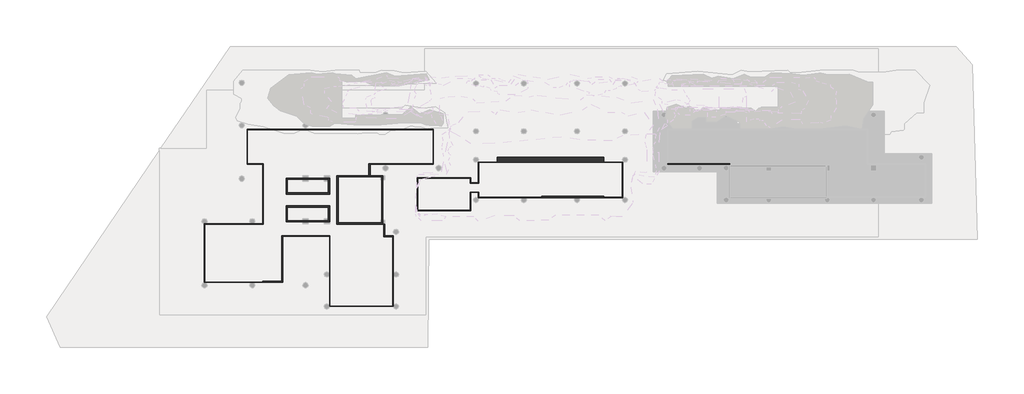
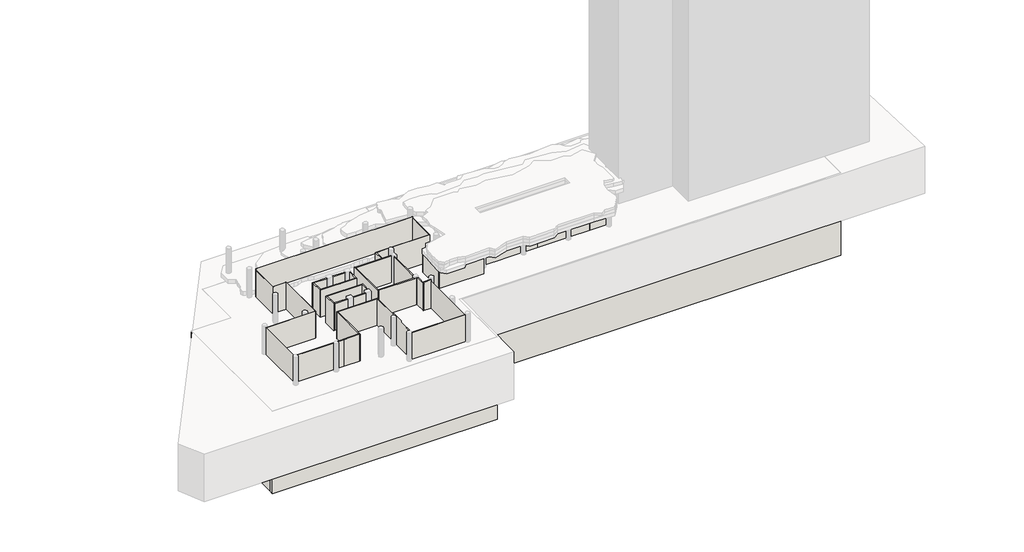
# One storey, part 1 of 3: 55 walls.
"""IFC4 building model written with IfcOpenShell, lengths in millimetres."""

from ifc_helpers import new_model, si_unit, frame, origin, place, context, project, spatial, polyline, outline, extrude, faceted_brep, element, save

model = new_model("IFC4")

# Units and contexts
model_context = context("Model", 3, world=origin())
ifc_project = project(units=[si_unit("LENGTHUNIT", "METRE", prefix="MILLI")], contexts=[model_context])

# Site, building, storey
site = spatial("IfcSite", under=ifc_project)
building = spatial("IfcBuilding", under=site)
storey = spatial("IfcBuildingStorey", under=building, Name="TW-L 01", Elevation=-3.14e-05)

# Walls
placement = place(None, origin())
element("IfcWall", 1, ObjectType="AJN-ARC-CONCRETE WALL-100cm", at=placement, inside=storey, context=model_context, shape_type="Brep", body=[
    faceted_brep([(16800.0, 5400.0, -17450.0000314), (61900.0, 5400.0, -17450.0000314), (61900.0, 5400.0, -400.0000314), (16800.0, 5400.0, -400.0000314), (16800.0, 6400.0, -17450.0000314), (16800.0, 6400.0, -400.0000314), (17800.0, 6400.0, -400.0000314), (60900.0, 6400.0, -400.0000314), (61900.0, 6400.0, -400.0000314), (61900.0, 6400.0, -17450.0000314), (60900.0, 6400.0, -17450.0000314), (17800.0, 6400.0, -17450.0000314)], [[[0, 1, 2, 3]], [[4, 5, 6, 7, 8, 9, 10, 11]], [[1, 0, 4, 11, 10, 9]], [[2, 1, 9, 8]], [[0, 3, 5, 4]], [[3, 2, 8, 7, 6, 5]]]),
])
element("IfcWall", 2, ObjectType="AJN-ARC-CONCRETE WALL-100cm", at=placement, inside=storey, context=model_context, shape_type="Brep", body=[
    faceted_brep([(61900.0, 6400.0, -17450.0000314), (61900.0, 18550.0, -17450.0000314), (61900.0, 19550.0, -17450.0000314), (61900.0, 19550.0, -400.0000314), (61900.0, 18550.0, -400.0000314), (61900.0, 6400.0, -400.0000314), (60900.0, 6400.0, -17450.0000314), (60900.0, 6400.0, -400.0000314), (60900.0, 19550.0, -400.0000314), (60900.0, 19550.0, -17450.0000314)], [[[0, 1, 2, 3, 4, 5]], [[6, 7, 8, 9]], [[2, 1, 0, 6, 9]], [[0, 5, 7, 6]], [[3, 2, 9, 8]], [[5, 4, 3, 8, 7]]]),
])
element("IfcWall", 3, ObjectType="AJN-ARC-CONCRETE WALL-100cm", at=placement, inside=storey, context=model_context, shape_type="Brep", body=[
    faceted_brep([(61900.0, 18550.0, -17450.0000314), (138400.0, 18550.0, -17450.0000314), (138400.0, 18550.0, -400.0000314), (61900.0, 18550.0, -400.0000314), (61900.0, 19550.0, -17450.0000314), (61900.0, 19550.0, -400.0000314), (137400.0, 19550.0, -400.0000314), (138400.0, 19550.0, -400.0000314), (138400.0, 19550.0, -17450.0000314), (137400.0, 19550.0, -17450.0000314)], [[[0, 1, 2, 3]], [[4, 5, 6, 7, 8, 9]], [[1, 0, 4, 9, 8]], [[0, 3, 5, 4]], [[2, 1, 8, 7]], [[3, 2, 7, 6, 5]]]),
])
element("IfcWall", 4, ObjectType="AJN-ARC-CONCRETE WALL-100cm", at=placement, inside=storey, context=model_context, shape_type="Brep", body=[
    faceted_brep([(16800.0, 33600.0, -17450.0000314), (16800.0, 6400.0, -17450.0000314), (16800.0, 6400.0, -400.0000314), (16800.0, 33600.0, -400.0000314), (17800.0, 33600.0, -17450.0000314), (17800.0, 33600.0, -400.0000314), (17800.0, 32600.0, -400.0000314), (17800.0, 6400.0, -400.0000314), (17800.0, 6400.0, -17450.0000314), (17800.0, 32600.0, -17450.0000314)], [[[0, 1, 2, 3]], [[4, 5, 6, 7, 8, 9]], [[1, 0, 4, 9, 8]], [[2, 1, 8, 7]], [[0, 3, 5, 4]], [[3, 2, 7, 6, 5]]]),
])
element("IfcWall", 5, ObjectType="AJN-ARC-CONCRETE WALL-100cm", at=placement, inside=storey, context=model_context, shape_type="Brep", body=[
    faceted_brep([(25700.0, 33600.0, -17450.0000314), (24700.0, 33600.0, -17450.0000314), (17800.0, 33600.0, -17450.0000314), (17800.0, 33600.0, -400.0000314), (24700.0, 33600.0, -400.0000314), (25700.0, 33600.0, -400.0000314), (25700.0, 32600.0, -17450.0000314), (25700.0, 32600.0, -400.0000314), (17800.0, 32600.0, -400.0000314), (17800.0, 32600.0, -17450.0000314)], [[[0, 1, 2, 3, 4, 5]], [[6, 7, 8, 9]], [[2, 1, 0, 6, 9]], [[3, 2, 9, 8]], [[0, 5, 7, 6]], [[5, 4, 3, 8, 7]]]),
])
element("IfcWall", 6, ObjectType="AJN-ARC-CONCRETE WALL-100cm", at=placement, inside=storey, context=model_context, shape_type="Brep", body=[
    faceted_brep([(24700.0, 43500.0, -17450.0000314), (24700.0, 33600.0, -17450.0000314), (24700.0, 33600.0, -400.0000314), (24700.0, 43500.0, -400.0000314), (25700.0, 43500.0, -17450.0000314), (25700.0, 43500.0, -400.0000314), (25700.0, 42500.0, -400.0000314), (25700.0, 33600.0, -400.0000314), (25700.0, 33600.0, -17450.0000314), (25700.0, 42500.0, -17450.0000314)], [[[0, 1, 2, 3]], [[4, 5, 6, 7, 8, 9]], [[1, 0, 4, 9, 8]], [[2, 1, 8, 7]], [[0, 3, 5, 4]], [[3, 2, 7, 6, 5]]]),
])
element("IfcWall", 7, ObjectType="AJN-ARC-CONCRETE WALL-100cm", at=placement, inside=storey, context=model_context, shape_type="Brep", body=[
    faceted_brep([(62600.0, 43500.0, -17450.0000314), (61600.0, 43500.0, -17450.0000314), (25700.0, 43500.0, -17450.0000314), (25700.0, 43500.0, -400.0000314), (61600.0, 43500.0, -400.0000314), (62600.0, 43500.0, -400.0000314), (62600.0, 42500.0, -17450.0000314), (62600.0, 42500.0, -400.0000314), (25700.0, 42500.0, -400.0000314), (25700.0, 42500.0, -17450.0000314)], [[[0, 1, 2, 3, 4, 5]], [[6, 7, 8, 9]], [[2, 1, 0, 6, 9]], [[3, 2, 9, 8]], [[0, 5, 7, 6]], [[5, 4, 3, 8, 7]]]),
])
element("IfcWall", 8, ObjectType="AJN-ARC-CONCRETE WALL-100cm", at=placement, inside=storey, context=model_context, shape_type="SweptSolid", body=[
    extrude(outline(polyline([(61600.0, 43500.0), (61600.0, 49500.0), (62600.0, 49500.0), (62600.0, 43500.0), (61600.0, 43500.0)])), frame((0.0, 0.0, -17450.0000314), z_axis=(0.0, 0.0, 1.0), x_axis=(1.0, 0.0, 0.0)), (0.0, 0.0, 1.0), 17050.0),
])
element("IfcWall", 9, ObjectType="AJN-ARC-CONCRETE WALL-20cm", at=placement, inside=storey, context=model_context, shape_type="Brep", body=[
    faceted_brep([(38200.0, 25900.0, -3.14e-05), (45550.0, 25900.0, -3.14e-05), (45550.0, 25900.0, 5699.9999686), (38200.0, 25900.0, 5699.9999686), (38200.0, 26100.0, -3.14e-05), (38200.0, 26100.0, 5699.9999686), (38400.0, 26100.0, 5699.9999686), (45350.0, 26100.0, 5699.9999686), (45550.0, 26100.0, 5699.9999686), (45550.0, 26100.0, -3.14e-05), (45350.0, 26100.0, -3.14e-05), (38400.0, 26100.0, -3.14e-05)], [[[0, 1, 2, 3]], [[4, 5, 6, 7, 8, 9, 10, 11]], [[1, 0, 4, 11, 10, 9]], [[2, 1, 9, 8]], [[0, 3, 5, 4]], [[3, 2, 8, 7, 6, 5]]]),
])
element("IfcWall", 10, ObjectType="AJN-ARC-CONCRETE WALL-20cm", at=placement, inside=storey, context=model_context, shape_type="Brep", body=[
    faceted_brep([(45550.0, 26100.0, -3.14e-05), (45550.0, 28600.0, -3.14e-05), (45550.0, 28600.0, 5699.9999686), (45550.0, 28050.0, 5699.9999686), (45550.0, 26100.0, 5699.9999686), (45350.0, 26100.0, -3.14e-05), (45350.0, 26100.0, 5699.9999686), (45350.0, 28050.0, 5699.9999686), (45350.0, 28400.0, 5699.9999686), (45350.0, 28600.0, 5699.9999686), (45350.0, 28600.0, -3.14e-05), (45350.0, 28400.0, -3.14e-05), (45350.0, 28050.0, -3.14e-05)], [[[0, 1, 2, 3, 4]], [[5, 6, 7, 8, 9, 10, 11, 12]], [[1, 0, 5, 12, 11, 10]], [[2, 1, 10, 9]], [[0, 4, 6, 5]], [[4, 3, 2, 9, 8, 7, 6]]]),
])
element("IfcWall", 11, ObjectType="AJN-ARC-CONCRETE WALL-20cm", at=placement, inside=storey, context=model_context, shape_type="Brep", body=[
    faceted_brep([(45350.0, 28600.0, -3.14e-05), (44650.0, 28600.0, -3.14e-05), (41950.0, 28600.0, -3.14e-05), (41050.0, 28600.0, -3.14e-05), (38200.0, 28600.0, -3.14e-05), (38200.0, 28600.0, 5699.9999686), (41050.0, 28600.0, 5699.9999686), (41950.0, 28600.0, 5699.9999686), (44650.0, 28600.0, 5699.9999686), (45350.0, 28600.0, 5699.9999686), (45350.0, 28400.0, -3.14e-05), (45350.0, 28400.0, 5699.9999686), (44650.0, 28400.0, 5699.9999686), (41950.0, 28400.0, 5699.9999686), (41050.0, 28400.0, 5699.9999686), (38400.0, 28400.0, 5699.9999686), (38200.0, 28400.0, 5699.9999686), (38200.0, 28400.0, -3.14e-05), (38400.0, 28400.0, -3.14e-05), (41050.0, 28400.0, -3.14e-05), (41950.0, 28400.0, -3.14e-05), (44650.0, 28400.0, -3.14e-05)], [[[0, 1, 2, 3, 4, 5, 6, 7, 8, 9]], [[10, 11, 12, 13, 14, 15, 16, 17, 18, 19, 20, 21]], [[4, 3, 2, 1, 0, 10, 21, 20, 19, 18, 17]], [[5, 4, 17, 16]], [[0, 9, 11, 10]], [[9, 8, 7, 6, 5, 16, 15, 14, 13, 12, 11]]]),
])
element("IfcWall", 12, ObjectType="AJN-ARC-CONCRETE WALL-20cm", at=placement, inside=storey, context=model_context, shape_type="SweptSolid", body=[
    extrude(outline(polyline([(38200.0, 26100.0), (38200.0, 28400.0), (38400.0, 28400.0), (38400.0, 26100.0), (38200.0, 26100.0)])), frame((0.0, 0.0, -3.14e-05), z_axis=(0.0, 0.0, 1.0), x_axis=(1.0, 0.0, 0.0)), (0.0, 0.0, 1.0), 5700.0),
])
element("IfcWall", 13, ObjectType="AJN-ARC-CONCRETE WALL-20cm", at=placement, inside=storey, context=model_context, shape_type="Brep", body=[
    faceted_brep([(38200.0, 23900.0, -3.14e-05), (38200.0, 21200.0, -3.14e-05), (38200.0, 21200.0, 5699.9999686), (38200.0, 23900.0, 5699.9999686), (38400.0, 23900.0, -3.14e-05), (38400.0, 23900.0, 5699.9999686), (38400.0, 23700.0, 5699.9999686), (38400.0, 21400.0, 5699.9999686), (38400.0, 21200.0, 5699.9999686), (38400.0, 21200.0, -3.14e-05), (38400.0, 21400.0, -3.14e-05), (38400.0, 23700.0, -3.14e-05)], [[[0, 1, 2, 3]], [[4, 5, 6, 7, 8, 9, 10, 11]], [[1, 0, 4, 11, 10, 9]], [[0, 3, 5, 4]], [[2, 1, 9, 8]], [[3, 2, 8, 7, 6, 5]]]),
])
element("IfcWall", 14, ObjectType="AJN-ARC-CONCRETE WALL-20cm", at=placement, inside=storey, context=model_context, shape_type="Brep", body=[
    faceted_brep([(38400.0, 21200.0, -3.14e-05), (41050.0, 21200.0, -3.14e-05), (41950.0, 21200.0, -3.14e-05), (44650.0, 21200.0, -3.14e-05), (45550.0, 21200.0, -3.14e-05), (45550.0, 21200.0, 5699.9999686), (44650.0, 21200.0, 5699.9999686), (41950.0, 21200.0, 5699.9999686), (41050.0, 21200.0, 5699.9999686), (38400.0, 21200.0, 5699.9999686), (38400.0, 21400.0, -3.14e-05), (38400.0, 21400.0, 5699.9999686), (41050.0, 21400.0, 5699.9999686), (41950.0, 21400.0, 5699.9999686), (44650.0, 21400.0, 5699.9999686), (45350.0, 21400.0, 5699.9999686), (45550.0, 21400.0, 5699.9999686), (45550.0, 21400.0, -3.14e-05), (45350.0, 21400.0, -3.14e-05), (44650.0, 21400.0, -3.14e-05), (41950.0, 21400.0, -3.14e-05), (41050.0, 21400.0, -3.14e-05)], [[[0, 1, 2, 3, 4, 5, 6, 7, 8, 9]], [[10, 11, 12, 13, 14, 15, 16, 17, 18, 19, 20, 21]], [[4, 3, 2, 1, 0, 10, 21, 20, 19, 18, 17]], [[5, 4, 17, 16]], [[0, 9, 11, 10]], [[9, 8, 7, 6, 5, 16, 15, 14, 13, 12, 11]]]),
])
element("IfcWall", 15, ObjectType="AJN-ARC-CONCRETE WALL-20cm", at=placement, inside=storey, context=model_context, shape_type="Brep", body=[
    faceted_brep([(45550.0, 21400.0, -3.14e-05), (45550.0, 23900.0, -3.14e-05), (45550.0, 23900.0, 5699.9999686), (45550.0, 21750.0, 5699.9999686), (45550.0, 21400.0, 5699.9999686), (45350.0, 21400.0, -3.14e-05), (45350.0, 21400.0, 5699.9999686), (45350.0, 21750.0, 5699.9999686), (45350.0, 23700.0, 5699.9999686), (45350.0, 23900.0, 5699.9999686), (45350.0, 23900.0, -3.14e-05), (45350.0, 23700.0, -3.14e-05), (45350.0, 21750.0, -3.14e-05)], [[[0, 1, 2, 3, 4]], [[5, 6, 7, 8, 9, 10, 11, 12]], [[1, 0, 5, 12, 11, 10]], [[2, 1, 10, 9]], [[0, 4, 6, 5]], [[4, 3, 2, 9, 8, 7, 6]]]),
])
element("IfcWall", 16, ObjectType="AJN-ARC-CONCRETE WALL-20cm", at=placement, inside=storey, context=model_context, shape_type="SweptSolid", body=[
    extrude(outline(polyline([(38400.0, 23900.0), (45350.0, 23900.0), (45350.0, 23700.0), (38400.0, 23700.0), (38400.0, 23900.0)])), frame((0.0, 0.0, -3.14e-05), z_axis=(0.0, 0.0, 1.0), x_axis=(1.0, 0.0, 0.0)), (0.0, 0.0, 1.0), 5700.0),
])
element("IfcWall", 17, ObjectType="AJN-ARC-CONCRETE WALL-20cm", at=placement, inside=storey, context=model_context, shape_type="Brep", body=[
    faceted_brep([(46800.0, 29000.0, -3.14e-05), (46800.0, 20800.0, -3.14e-05), (46800.0, 20800.0, 5699.9999686), (46800.0, 29000.0, 5699.9999686), (47000.0, 29000.0, -3.14e-05), (47000.0, 29000.0, 5699.9999686), (47000.0, 28800.0, 5699.9999686), (47000.0, 21000.0, 5699.9999686), (47000.0, 20800.0, 5699.9999686), (47000.0, 20800.0, -3.14e-05), (47000.0, 21000.0, -3.14e-05), (47000.0, 28800.0, -3.14e-05)], [[[0, 1, 2, 3]], [[4, 5, 6, 7, 8, 9, 10, 11]], [[1, 0, 4, 11, 10, 9]], [[0, 3, 5, 4]], [[2, 1, 9, 8]], [[3, 2, 8, 7, 6, 5]]]),
])
element("IfcWall", 18, ObjectType="AJN-ARC-CONCRETE WALL-20cm", at=placement, inside=storey, context=model_context, shape_type="Brep", body=[
    faceted_brep([(47000.0, 20800.0, -3.14e-05), (54550.0, 20800.0, -3.14e-05), (54550.0, 20800.0, 5699.9999686), (54200.0, 20800.0, 5699.9999686), (47000.0, 20800.0, 5699.9999686), (47000.0, 21000.0, -3.14e-05), (47000.0, 21000.0, 5699.9999686), (54200.0, 21000.0, 5699.9999686), (54350.0, 21000.0, 5699.9999686), (54550.0, 21000.0, 5699.9999686), (54550.0, 21000.0, -3.14e-05), (54350.0, 21000.0, -3.14e-05), (54200.0, 21000.0, -3.14e-05)], [[[0, 1, 2, 3, 4]], [[5, 6, 7, 8, 9, 10, 11, 12]], [[1, 0, 5, 12, 11, 10]], [[2, 1, 10, 9]], [[0, 4, 6, 5]], [[4, 3, 2, 9, 8, 7, 6]]]),
])
element("IfcWall", 19, ObjectType="AJN-ARC-CONCRETE WALL-20cm", at=placement, inside=storey, context=model_context, shape_type="Brep", body=[
    faceted_brep([(54550.0, 21000.0, -3.14e-05), (54550.0, 21500.0, -3.14e-05), (54550.0, 28300.0, -3.14e-05), (54550.0, 29000.0, -3.14e-05), (54550.0, 29000.0, 5699.9999686), (54550.0, 28300.0, 5699.9999686), (54550.0, 21500.0, 5699.9999686), (54550.0, 21000.0, 5699.9999686), (54350.0, 21000.0, -3.14e-05), (54350.0, 21000.0, 5699.9999686), (54350.0, 21500.0, 5699.9999686), (54350.0, 28300.0, 5699.9999686), (54350.0, 28800.0, 5699.9999686), (54350.0, 29000.0, 5699.9999686), (54350.0, 29000.0, -3.14e-05), (54350.0, 28800.0, -3.14e-05), (54350.0, 28300.0, -3.14e-05), (54350.0, 21500.0, -3.14e-05)], [[[0, 1, 2, 3, 4, 5, 6, 7]], [[8, 9, 10, 11, 12, 13, 14, 15, 16, 17]], [[3, 2, 1, 0, 8, 17, 16, 15, 14]], [[4, 3, 14, 13]], [[0, 7, 9, 8]], [[7, 6, 5, 4, 13, 12, 11, 10, 9]]]),
])
element("IfcWall", 20, ObjectType="AJN-ARC-CONCRETE WALL-20cm", at=placement, inside=storey, context=model_context, shape_type="Brep", body=[
    faceted_brep([(54350.0, 29000.0, -3.14e-05), (47000.0, 29000.0, -3.14e-05), (47000.0, 29000.0, 5699.9999686), (54200.0, 29000.0, 5699.9999686), (54350.0, 29000.0, 5699.9999686), (54350.0, 28800.0, -3.14e-05), (54350.0, 28800.0, 5699.9999686), (54200.0, 28800.0, 5699.9999686), (47000.0, 28800.0, 5699.9999686), (47000.0, 28800.0, -3.14e-05), (54200.0, 28800.0, -3.14e-05)], [[[0, 1, 2, 3, 4]], [[5, 6, 7, 8, 9, 10]], [[1, 0, 5, 10, 9]], [[2, 1, 9, 8]], [[0, 4, 6, 5]], [[4, 3, 2, 8, 7, 6]]]),
])
element("IfcWall", 21, ObjectType="AJN-ARC-CONCRETE WALL-20cm", at=placement, inside=storey, context=model_context, shape_type="Brep", body=[
    faceted_brep([(37650.0, 10950.0, -3.14e-05), (37650.0, 18800.0000035, -3.14e-05), (37650.0, 18800.0000035, 5699.9999686), (37650.0, 13150.0, 5699.9999686), (37650.0, 10950.0, 5699.9999686), (37450.0, 10950.0, -3.14e-05), (37450.0, 10950.0, 5699.9999686), (37450.0, 11150.0, 5699.9999686), (37450.0, 18800.0000035, 5699.9999686), (37450.0, 18800.0000035, -3.14e-05), (37450.0, 11150.0, -3.14e-05)], [[[0, 1, 2, 3, 4]], [[5, 6, 7, 8, 9, 10]], [[1, 0, 5, 10, 9]], [[0, 4, 6, 5]], [[2, 1, 9, 8]], [[4, 3, 2, 8, 7, 6]]]),
])
element("IfcWall", 22, ObjectType="AJN-ARC-CONCRETE WALL-20cm", at=placement, inside=storey, context=model_context, shape_type="Brep", body=[
    faceted_brep([(34300.0, 10950.0, -3.14e-05), (37450.0, 10950.0, -3.14e-05), (37450.0, 10950.0, 5699.9999686), (34300.0, 10950.0, 5699.9999686), (34300.0, 11150.0, -3.14e-05), (34300.0, 11150.0, 5699.9999686), (37450.0, 11150.0, 5699.9999686), (37450.0, 11150.0, -3.14e-05), (34300.0, 11000.0, -3.14e-05), (34300.0, 11000.0, 5699.9999686)], [[[0, 1, 2, 3]], [[4, 5, 6, 7]], [[1, 0, 8, 4, 7]], [[0, 3, 9, 5, 4, 8]], [[2, 1, 7, 6]], [[3, 2, 6, 5, 9]]]),
])
element("IfcWall", 23, ObjectType="AJN-ARC-CONCRETE WALL-20cm", at=placement, inside=storey, context=model_context, shape_type="Brep", body=[
    faceted_brep([(81399.9979052, 25300.0268529, -3.14e-05), (87193.8685441, 25300.0122784, -3.14e-05), (87606.1334684, 25300.0112414, -3.14e-05), (91899.997905, 25300.0004402, -3.14e-05), (91899.997905, 25300.0004402, 4000.0), (87606.1334684, 25300.0112414, 4000.0), (87193.8685441, 25300.0122784, 4000.0), (81399.9979052, 25300.0268529, 4000.0), (81399.9984083, 25500.0268529, -3.14e-05), (81399.9984083, 25500.0268529, 4000.0), (91899.9984081, 25500.0004402, 4000.0), (91899.9984081, 25500.0004402, -3.14e-05), (81399.9980309, 25350.0268529, -3.14e-05), (91899.9980308, 25350.0004402, -3.14e-05), (91899.9980308, 25350.0004402, 4000.0), (81399.9980309, 25350.0268529, 4000.0)], [[[0, 1, 2, 3, 4, 5, 6, 7]], [[8, 9, 10, 11]], [[3, 2, 1, 0, 12, 8, 11, 13]], [[4, 3, 13, 11, 10, 14]], [[0, 7, 15, 9, 8, 12]], [[7, 6, 5, 4, 14, 10, 9, 15]]]),
])
element("IfcWall", 24, ObjectType="AJN-ARC-CONCRETE WALL-20cm", at=placement, inside=storey, context=model_context, shape_type="Brep", body=[
    faceted_brep([(54700.0, 20800.0, -3.14e-05), (54700.0, 18650.0, -3.14e-05), (54700.0, 18650.0, 5699.9999686), (54700.0, 20800.0, 5699.9999686), (54900.0, 20800.0, -3.14e-05), (54900.0, 20800.0, 5699.9999686), (54900.0, 18650.0, 5699.9999686), (54900.0, 18650.0, -3.14e-05), (54900.0, 18850.0, -3.14e-05)], [[[0, 1, 2, 3]], [[4, 5, 6, 7, 8]], [[1, 0, 4, 8, 7]], [[0, 3, 5, 4]], [[2, 1, 7, 6]], [[3, 2, 6, 5]]]),
])
element("IfcWall", 25, ObjectType="AJN-ARC-CONCRETE WALL-20cm", at=placement, inside=storey, context=model_context, shape_type="Brep", body=[
    faceted_brep([(56300.0, 18850.0, -3.14e-05), (54900.0, 18850.0, -3.14e-05), (54900.0, 18850.0, 5999.9999686), (56300.0, 18850.0, 5999.9999686), (56300.0, 18650.0, -3.14e-05), (56300.0, 18650.0, 5999.9999686), (54900.0, 18650.0, 5999.9999686), (54900.0, 18650.0, 5699.9999686), (54900.0, 18650.0, -3.14e-05)], [[[0, 1, 2, 3]], [[4, 5, 6, 7, 8]], [[1, 0, 4, 8]], [[3, 2, 6, 5]], [[0, 3, 5, 4]], [[2, 1, 8, 7, 6]]]),
])
element("IfcWall", 26, ObjectType="AJN-ARC-CONCRETE WALL-20cm", at=placement, inside=storey, context=model_context, shape_type="SweptSolid", body=[
    extrude(outline(polyline([(52200.0, 29000.0), (52200.0, 31000.0007569), (52400.0, 31000.0007569), (52400.0, 29000.0), (52200.0, 29000.0)])), frame((0.0, 0.0, -3.14e-05), z_axis=(0.0, 0.0, 1.0), x_axis=(1.0, 0.0, 0.0)), (0.0, 0.0, 1.0), 5700.0),
])
element("IfcWall", 27, ObjectType="AJN-ARC-CONCRETE WALL-85cm", at=placement, inside=storey, context=model_context, shape_type="Brep", body=[
    faceted_brep([(73900.0137217, 31250.060712, -3.14e-05), (91899.9872323, 31250.6008979, -3.14e-05), (91899.9872323, 31250.6008979, 4000.0), (73900.0137217, 31250.060712, 4000.0), (73899.9882129, 32100.0607116, -3.14e-05), (73899.9882129, 32100.0607116, 4000.0), (91899.9617235, 32100.6008975, 4000.0), (91899.9617235, 32100.6008975, -3.14e-05), (73900.0122212, 31300.060712, -3.14e-05), (91899.9857318, 31300.6008978, -3.14e-05), (91899.9857318, 31300.6008978, 4000.0), (73900.0122212, 31300.060712, 4000.0)], [[[0, 1, 2, 3]], [[4, 5, 6, 7]], [[1, 0, 8, 4, 7, 9]], [[2, 1, 9, 7, 6, 10]], [[0, 3, 11, 5, 4, 8]], [[3, 2, 10, 6, 5, 11]]]),
])
element("IfcWall", 28, ObjectType="AJN-ARC-GLASS-50mm", at=placement, inside=storey, context=model_context, shape_type="Brep", body=[
    faceted_brep([(52400.0, 30950.0007569, -3.14e-05), (63100.0103082, 30950.0007569, -3.14e-05), (63100.0103082, 30950.0007569, 5699.9999686), (54900.0, 30950.0007569, 5699.9999686), (52400.0, 30950.0007569, 5699.9999686), (52400.0, 31000.0007569, -3.14e-05), (52400.0, 31000.0007569, 5699.9999686), (63050.0101335, 31000.0007569, 5699.9999686), (63100.0179621, 31000.0007569, 5699.9999686), (63100.0101335, 31000.0007569, -3.14e-05), (63050.0101335, 31000.0007569, -3.14e-05)], [[[0, 1, 2, 3, 4]], [[5, 6, 7, 8, 9, 10]], [[1, 0, 5, 10, 9]], [[2, 1, 9, 8]], [[4, 3, 2, 8, 7, 6]], [[0, 4, 6, 5]]]),
])
element("IfcWall", 29, ObjectType="AJN-ARC-GLASS-50mm", at=placement, inside=storey, context=model_context, shape_type="Brep", body=[
    faceted_brep([(63100.0101335, 31000.0007569, -3.14e-05), (63099.9896918, 36850.0, -3.14e-05), (63099.9896918, 36850.0, 5699.9999686), (63099.99371, 35700.081904, 5699.9999686), (63100.0, 33900.0, 5699.9999686), (63100.0101335, 31000.0007569, 5699.9999686), (63050.0101335, 31000.0007569, -3.14e-05), (63050.0101335, 31000.0007569, 5699.9999686), (63049.9896918, 36849.9989647, 5699.9999686), (63049.9896918, 36850.0, -3.14e-05), (63049.9898665, 36800.0, -3.14e-05)], [[[0, 1, 2, 3, 4, 5]], [[6, 7, 8, 9, 10]], [[1, 0, 6, 10, 9]], [[2, 1, 9, 8]], [[0, 5, 7, 6]], [[5, 4, 3, 2, 8, 7]]]),
])
element("IfcWall", 30, ObjectType="AJN-ARC-GLASS-50mm", at=placement, inside=storey, context=model_context, shape_type="Brep", body=[
    faceted_brep([(63049.9896918, 36850.0, -3.14e-05), (31600.0, 36850.0, -3.14e-05), (31600.0, 36850.0, 5999.9999686), (63049.9896918, 36850.0, 5999.9999686), (63049.9896918, 36850.0, 5699.9999686), (63049.9898665, 36800.0, -3.14e-05), (63049.9898665, 36800.0, 5999.9999686), (31600.0, 36800.0, 5999.9999686), (31600.0, 36800.0, 5699.9999686), (31600.0, 36800.0, -3.14e-05), (31650.0, 36800.0, -3.14e-05)], [[[0, 1, 2, 3, 4]], [[5, 6, 7, 8, 9, 10]], [[1, 0, 5, 10, 9]], [[3, 2, 7, 6]], [[2, 1, 9, 8, 7]], [[0, 4, 3, 6, 5]]]),
])
element("IfcWall", 31, ObjectType="AJN-ARC-GLASS-50mm", at=placement, inside=storey, context=model_context, shape_type="Brep", body=[
    faceted_brep([(31600.0, 36800.0, -3.14e-05), (31600.0, 30950.0, -3.14e-05), (31600.0, 30950.0, 5699.9999686), (31600.0, 36800.0, 5699.9999686), (31650.0, 36800.0, -3.14e-05), (31650.0, 36800.0, 5699.9999686), (31650.0, 31000.0, 5699.9999686), (31650.0, 30950.0, 5699.9999686), (31650.0, 30950.0, -3.14e-05), (31650.0, 31000.0, -3.14e-05)], [[[0, 1, 2, 3]], [[4, 5, 6, 7, 8, 9]], [[1, 0, 4, 9, 8]], [[2, 1, 8, 7]], [[0, 3, 5, 4]], [[3, 2, 7, 6, 5]]]),
])
element("IfcWall", 32, ObjectType="AJN-ARC-GLASS-50mm", at=placement, inside=storey, context=model_context, shape_type="Brep", body=[
    faceted_brep([(31650.0, 30950.0, -3.14e-05), (34300.0, 30950.0, -3.14e-05), (34350.0, 30950.0, -3.14e-05), (34350.0, 30950.0, 5699.9999686), (34300.0, 30950.0, 5699.9999686), (31650.0, 30950.0, 5699.9999686), (31650.0, 31000.0, -3.14e-05), (31650.0, 31000.0, 5699.9999686), (34350.0, 31000.0, 5699.9999686), (34350.0, 31000.0, -3.14e-05)], [[[0, 1, 2, 3, 4, 5]], [[6, 7, 8, 9]], [[2, 1, 0, 6, 9]], [[0, 5, 7, 6]], [[3, 2, 9, 8]], [[5, 4, 3, 8, 7]]]),
])
element("IfcWall", 33, ObjectType="AJN-ARC-GLASS-50mm", at=placement, inside=storey, context=model_context, shape_type="Brep", body=[
    faceted_brep([(34300.0, 30950.0, -3.14e-05), (34300.0, 20850.0, -3.14e-05), (34300.0, 20800.0, -3.14e-05), (34300.0, 20800.0, 5699.9999686), (34300.0, 20850.0, 5699.9999686), (34300.0, 30950.0, 5699.9999686), (34350.0, 30950.0, -3.14e-05), (34350.0, 30950.0, 5699.9999686), (34350.0, 20800.0, 5699.9999686), (34350.0, 20800.0, -3.14e-05)], [[[0, 1, 2, 3, 4, 5]], [[6, 7, 8, 9]], [[2, 1, 0, 6, 9]], [[3, 2, 9, 8]], [[0, 5, 7, 6]], [[5, 4, 3, 8, 7]]]),
])
element("IfcWall", 34, ObjectType="AJN-ARC-GLASS-50mm", at=placement, inside=storey, context=model_context, shape_type="Brep", body=[
    faceted_brep([(34300.0, 20850.0, -3.14e-05), (24400.0000005, 20850.0, -3.14e-05), (24400.0000005, 20850.0, 5699.9999686), (34300.0, 20850.0, 5699.9999686), (34300.0, 20800.0, -3.14e-05), (34300.0, 20800.0, 5699.9999686), (24449.9999965, 20800.0, 5699.9999686), (24399.9999965, 20800.0, 5699.9999686), (24399.9999965, 20800.0, -3.14e-05), (24449.9999965, 20800.0, -3.14e-05)], [[[0, 1, 2, 3]], [[4, 5, 6, 7, 8, 9]], [[1, 0, 4, 9, 8]], [[2, 1, 8, 7]], [[0, 3, 5, 4]], [[3, 2, 7, 6, 5]]]),
])
element("IfcWall", 35, ObjectType="AJN-ARC-GLASS-50mm", at=placement, inside=storey, context=model_context, shape_type="Brep", body=[
    faceted_brep([(24399.9999965, 20800.0, -3.14e-05), (24399.9992118, 10950.0, -3.14e-05), (24399.9992118, 10950.0, 5699.9999686), (24399.9998451, 18900.0, 5699.9999686), (24399.9999965, 20800.0, 5699.9999686), (24449.9999965, 20800.0, -3.14e-05), (24449.9999965, 20800.0, 5699.9999686), (24449.9992158, 11000.0, 5699.9999686), (24449.9992118, 10950.0, 5699.9999686), (24449.9992118, 10950.0, -3.14e-05), (24449.9992158, 11000.0, -3.14e-05)], [[[0, 1, 2, 3, 4]], [[5, 6, 7, 8, 9, 10]], [[1, 0, 5, 10, 9]], [[2, 1, 9, 8]], [[0, 4, 6, 5]], [[4, 3, 2, 8, 7, 6]]]),
])
element("IfcWall", 36, ObjectType="AJN-ARC-GLASS-50mm", at=placement, inside=storey, context=model_context, shape_type="Brep", body=[
    faceted_brep([(24449.9992118, 10950.0, -3.14e-05), (34300.0, 10950.0, -3.14e-05), (34300.0, 10950.0, 5699.9999686), (30100.0, 10950.0, 5699.9999686), (24449.9992118, 10950.0, 5699.9999686), (24449.9992158, 11000.0, -3.14e-05), (24449.9992158, 11000.0, 5699.9999686), (34300.0, 11000.0, 5699.9999686), (34300.0, 11000.0, -3.14e-05)], [[[0, 1, 2, 3, 4]], [[5, 6, 7, 8]], [[1, 0, 5, 8]], [[2, 1, 8, 7]], [[0, 4, 6, 5]], [[4, 3, 2, 7, 6]]]),
])
element("IfcWall", 37, ObjectType="AJN-ARC-GLASS-50mm", at=placement, inside=storey, context=model_context, shape_type="Brep", body=[
    faceted_brep([(37450.0, 18800.0000035, -3.14e-05), (37650.0, 18800.0000035, -3.14e-05), (45549.9999997, 18800.0000038, -3.14e-05), (45599.9999997, 18800.0000038, -3.14e-05), (45599.9999997, 18800.0000038, 5699.9999686), (45549.9999997, 18800.0000038, 5699.9999686), (37650.0, 18800.0000035, 5699.9999686), (37450.0, 18800.0000035, 5699.9999686), (37450.0, 18850.0000035, -3.14e-05), (37450.0, 18850.0000035, 5699.9999686), (45599.9999997, 18850.0000038, 5699.9999686), (45599.9999997, 18850.0000038, -3.14e-05)], [[[0, 1, 2, 3, 4, 5, 6, 7]], [[8, 9, 10, 11]], [[3, 2, 1, 0, 8, 11]], [[0, 7, 9, 8]], [[7, 6, 5, 4, 10, 9]], [[4, 3, 11, 10]]]),
])
element("IfcWall", 38, ObjectType="AJN-ARC-GLASS-50mm", at=placement, inside=storey, context=model_context, shape_type="Brep", body=[
    faceted_brep([(45549.9999997, 18800.0000038, -3.14e-05), (45550.0, 6900.0, -3.14e-05), (45550.0, 6900.0, 5699.9999686), (45549.9999999, 10500.0, 5699.9999686), (45549.9999999, 10500.0, 5999.9999686), (45549.9999998, 13150.0, 5999.9999686), (45549.9999998, 13150.0, 5699.9999686), (45549.9999997, 18800.0000038, 5699.9999686), (45599.9999997, 18800.0000038, -3.14e-05), (45599.9999997, 18800.0000038, 5699.9999686), (45599.9999998, 13150.0, 5699.9999686), (45599.9999998, 13150.0, 5999.9999686), (45599.9999999, 10500.0, 5999.9999686), (45599.9999999, 10500.0, 5699.9999686), (45600.0, 6950.0, 5699.9999686), (45600.0, 6900.0, 5699.9999686), (45600.0, 6900.0, -3.14e-05), (45600.0, 6950.0, -3.14e-05)], [[[0, 1, 2, 3, 4, 5, 6, 7]], [[8, 9, 10, 11, 12, 13, 14, 15, 16, 17]], [[1, 0, 8, 17, 16]], [[2, 1, 16, 15]], [[12, 4, 3, 13]], [[5, 4, 12, 11]], [[5, 11, 10, 6]], [[3, 2, 15, 14, 13]], [[7, 6, 10, 9]], [[0, 7, 9, 8]]]),
])
element("IfcWall", 39, ObjectType="AJN-ARC-GLASS-50mm", at=placement, inside=storey, context=model_context, shape_type="Brep", body=[
    faceted_brep([(45600.0, 6900.0, -3.14e-05), (56300.0, 6900.0, -3.14e-05), (56300.0, 6900.0, 5699.9999686), (45600.0, 6900.0, 5699.9999686), (45600.0, 6950.0, -3.14e-05), (45600.0, 6950.0, 5699.9999686), (56250.0, 6950.0, 5699.9999686), (56300.0, 6950.0, 5699.9999686), (56300.0, 6950.0, -3.14e-05), (56250.0, 6950.0, -3.14e-05)], [[[0, 1, 2, 3]], [[4, 5, 6, 7, 8, 9]], [[1, 0, 4, 9, 8]], [[2, 1, 8, 7]], [[0, 3, 5, 4]], [[3, 2, 7, 6, 5]]]),
])
element("IfcWall", 40, ObjectType="AJN-ARC-GLASS-50mm", at=placement, inside=storey, context=model_context, shape_type="Brep", body=[
    faceted_brep([(56300.0, 6950.0, -3.14e-05), (56300.0, 18650.0, -3.14e-05), (56300.0, 18650.0, 5699.9999686), (56300.0, 11850.0, 5699.9999686), (56300.0, 6950.0, 5699.9999686), (56250.0, 6950.0, -3.14e-05), (56250.0, 6950.0, 5699.9999686), (56250.0, 18650.0, 5699.9999686), (56250.0, 18650.0, -3.14e-05)], [[[0, 1, 2, 3, 4]], [[5, 6, 7, 8]], [[1, 0, 5, 8]], [[0, 4, 6, 5]], [[4, 3, 2, 7, 6]], [[2, 1, 8, 7]]]),
])
element("IfcWall", 41, ObjectType="AJN-ARC-GLASS-50mm", at=placement, inside=storey, context=model_context, shape_type="Brep", body=[
    faceted_brep([(73900.0122212, 31300.060712, -3.14e-05), (70700.0, 31299.9646784, -3.14e-05), (70700.0, 31299.9646784, 4000.0), (73900.0122212, 31300.060712, 4000.0), (73900.0137217, 31250.060712, -3.14e-05), (73900.0137217, 31250.060712, 4000.0), (70750.0, 31249.9661789, 4000.0), (70700.0, 31249.9646784, 4000.0), (70700.0, 31249.9646784, -3.14e-05), (70750.0, 31249.9661789, -3.14e-05)], [[[0, 1, 2, 3]], [[4, 5, 6, 7, 8, 9]], [[1, 0, 4, 9, 8]], [[0, 3, 5, 4]], [[2, 1, 8, 7]], [[3, 2, 7, 6, 5]]]),
])
element("IfcWall", 42, ObjectType="AJN-ARC-GLASS-50mm", at=placement, inside=storey, context=model_context, shape_type="Brep", body=[
    faceted_brep([(70700.0, 31249.9646784, -3.14e-05), (70700.0, 27774.8316041, -3.14e-05), (70700.0, 27724.8316041, -3.14e-05), (70700.0, 27724.8316041, 4000.0), (70700.0, 27774.8316041, 4000.0), (70700.0, 31249.9646784, 4000.0), (70750.0, 31249.9661789, -3.14e-05), (70750.0, 31249.9661789, 4000.0), (70750.0, 27724.8316041, 4000.0), (70750.0, 27724.8316041, -3.14e-05)], [[[0, 1, 2, 3, 4, 5]], [[6, 7, 8, 9]], [[2, 1, 0, 6, 9]], [[0, 5, 7, 6]], [[5, 4, 3, 8, 7]], [[3, 2, 9, 8]]]),
])
element("IfcWall", 43, ObjectType="AJN-ARC-GLASS-50mm", at=placement, inside=storey, context=model_context, shape_type="Brep", body=[
    faceted_brep([(70700.0, 27774.8316041, -3.14e-05), (69396.8830322, 27774.8316041, -3.14e-05), (69346.8830322, 27774.8316041, -3.14e-05), (69346.8830322, 27774.8316041, 4000.0), (69396.8830322, 27774.8316041, 4000.0), (70700.0, 27774.8316041, 4000.0), (70700.0, 27724.8316041, -3.14e-05), (70700.0, 27724.8316041, 4000.0), (69346.8830318, 27724.8316041, 4000.0), (69346.8830318, 27724.8316041, -3.14e-05)], [[[0, 1, 2, 3, 4, 5]], [[6, 7, 8, 9]], [[2, 1, 0, 6, 9]], [[5, 4, 3, 8, 7]], [[3, 2, 9, 8]], [[0, 5, 7, 6]]]),
])
element("IfcWall", 44, ObjectType="AJN-ARC-GLASS-50mm", at=placement, inside=storey, context=model_context, shape_type="Brep", body=[
    faceted_brep([(69396.8830322, 27774.8316041, -3.14e-05), (69396.8830393, 28650.0, -3.14e-05), (69396.8830393, 28650.0, 4000.0), (69396.8830322, 27774.8316041, 4000.0), (69346.8830322, 27774.8316041, -3.14e-05), (69346.8830322, 27774.8316041, 4000.0), (69346.8830389, 28599.9981453, 4000.0), (69346.8830393, 28649.9981453, 4000.0), (69346.8830393, 28649.9981453, -3.14e-05), (69346.8830389, 28599.9981453, -3.14e-05)], [[[0, 1, 2, 3]], [[4, 5, 6, 7, 8, 9]], [[1, 0, 4, 9, 8]], [[2, 1, 8, 7]], [[3, 2, 7, 6, 5]], [[0, 3, 5, 4]]]),
])
element("IfcWall", 45, ObjectType="AJN-ARC-GLASS-50mm", at=placement, inside=storey, context=model_context, shape_type="Brep", body=[
    faceted_brep([(69346.8830393, 28649.9981453, -3.14e-05), (60400.0, 28649.6662745, -3.14e-05), (60400.0, 28649.6662745, 4000.0), (69346.8830393, 28649.9981453, 4000.0), (69346.8830389, 28599.9981453, -3.14e-05), (69346.8830389, 28599.9981453, 4000.0), (60450.0, 28599.6681292, 4000.0), (60400.0, 28599.6662745, 4000.0), (60400.0, 28599.6662745, -3.14e-05), (60450.0, 28599.6681292, -3.14e-05)], [[[0, 1, 2, 3]], [[4, 5, 6, 7, 8, 9]], [[1, 0, 4, 9, 8]], [[2, 1, 8, 7]], [[0, 3, 5, 4]], [[3, 2, 7, 6, 5]]]),
])
element("IfcWall", 46, ObjectType="AJN-ARC-GLASS-50mm", at=placement, inside=storey, context=model_context, shape_type="Brep", body=[
    faceted_brep([(60400.0, 28599.6662745, -3.14e-05), (60400.0, 23100.0, -3.14e-05), (60400.0, 23100.0, 4000.0), (60400.0, 28599.6662745, 4000.0), (60450.0, 28599.6681292, -3.14e-05), (60450.0, 28599.6681292, 4000.0), (60450.0, 23150.0001496, 4000.0), (60450.0, 23100.0001496, 4000.0), (60450.0, 23100.0001496, -3.14e-05), (60450.0, 23150.0001496, -3.14e-05)], [[[0, 1, 2, 3]], [[4, 5, 6, 7, 8, 9]], [[1, 0, 4, 9, 8]], [[2, 1, 8, 7]], [[0, 3, 5, 4]], [[3, 2, 7, 6, 5]]]),
])
element("IfcWall", 47, ObjectType="AJN-ARC-GLASS-50mm", at=placement, inside=storey, context=model_context, shape_type="Brep", body=[
    faceted_brep([(60450.0, 23100.0001496, -3.14e-05), (69396.8830322, 23100.0269158, -3.14e-05), (69396.8830322, 23100.0269158, 4000.0), (60450.0, 23100.0001496, 4000.0), (60450.0, 23150.0001496, -3.14e-05), (60450.0, 23150.0001496, 4000.0), (69346.8830322, 23150.0267662, 4000.0), (69396.8830322, 23150.0269158, 4000.0), (69396.8830322, 23150.0269158, -3.14e-05), (69346.8830322, 23150.0267662, -3.14e-05)], [[[0, 1, 2, 3]], [[4, 5, 6, 7, 8, 9]], [[1, 0, 4, 9, 8]], [[2, 1, 8, 7]], [[0, 3, 5, 4]], [[3, 2, 7, 6, 5]]]),
])
element("IfcWall", 48, ObjectType="AJN-ARC-GLASS-50mm", at=placement, inside=storey, context=model_context, shape_type="Brep", body=[
    faceted_brep([(69396.8830322, 23150.0269158, -3.14e-05), (69396.8830322, 26174.8316041, -3.14e-05), (69396.8830322, 26224.8316041, -3.14e-05), (69396.8830322, 26224.8316041, 4000.0), (69396.8830322, 26174.8316041, 4000.0), (69396.8830322, 23150.0269158, 4000.0), (69346.8830322, 23150.0267662, -3.14e-05), (69346.8830322, 23150.0267662, 4000.0), (69346.8830322, 26224.8316041, 4000.0), (69346.8830322, 26224.8316041, -3.14e-05)], [[[0, 1, 2, 3, 4, 5]], [[6, 7, 8, 9]], [[2, 1, 0, 6, 9]], [[0, 5, 7, 6]], [[5, 4, 3, 8, 7]], [[3, 2, 9, 8]]]),
])
element("IfcWall", 49, ObjectType="AJN-ARC-GLASS-50mm", at=placement, inside=storey, context=model_context, shape_type="Brep", body=[
    faceted_brep([(69396.8830322, 26174.8316041, -3.14e-05), (70700.0153663, 26174.8316041, -3.14e-05), (70750.0153663, 26174.8316041, -3.14e-05), (70750.0153663, 26174.8316041, 4000.0), (70700.0153663, 26174.8316041, 4000.0), (69396.8830322, 26174.8316041, 4000.0), (69396.8830322, 26224.8316041, -3.14e-05), (69396.8830322, 26224.8316041, 4000.0), (70750.0152164, 26224.8316041, 4000.0), (70750.0152164, 26224.8316041, -3.14e-05)], [[[0, 1, 2, 3, 4, 5]], [[6, 7, 8, 9]], [[2, 1, 0, 6, 9]], [[5, 4, 3, 8, 7]], [[3, 2, 9, 8]], [[0, 5, 7, 6]]]),
])
element("IfcWall", 50, ObjectType="AJN-ARC-GLASS-50mm", at=placement, inside=storey, context=model_context, shape_type="Brep", body=[
    faceted_brep([(70700.0153663, 26174.8316041, -3.14e-05), (70700.017989, 25300.0537687, -3.14e-05), (70700.017989, 25300.0537687, 4000.0), (70700.0153663, 26174.8316041, 4000.0), (70750.0153663, 26174.8316041, -3.14e-05), (70750.0153663, 26174.8316041, 4000.0), (70750.0178391, 25350.0536429, 4000.0), (70750.017989, 25300.0536429, 4000.0), (70750.017989, 25300.0536429, -3.14e-05), (70750.0178391, 25350.0536429, -3.14e-05)], [[[0, 1, 2, 3]], [[4, 5, 6, 7, 8, 9]], [[1, 0, 4, 9, 8]], [[2, 1, 8, 7]], [[3, 2, 7, 6, 5]], [[0, 3, 5, 4]]]),
])
element("IfcWall", 51, ObjectType="AJN-ARC-GLASS-50mm", at=placement, inside=storey, context=model_context, shape_type="Brep", body=[
    faceted_brep([(70750.017989, 25300.0536429, -3.14e-05), (78193.9124833, 25300.0349178, -3.14e-05), (78606.0895293, 25300.033881, -3.14e-05), (81399.9979052, 25300.0268529, -3.14e-05), (81399.9979052, 25300.0268529, 4000.0), (78606.0895293, 25300.033881, 4000.0), (78193.9124833, 25300.0349178, 4000.0), (70750.017989, 25300.0536429, 4000.0), (70750.0178391, 25350.0536429, -3.14e-05), (70750.0178391, 25350.0536429, 4000.0), (81399.9980309, 25350.0268529, 4000.0), (81399.9980309, 25350.0268529, -3.14e-05)], [[[0, 1, 2, 3, 4, 5, 6, 7]], [[8, 9, 10, 11]], [[3, 2, 1, 0, 8, 11]], [[4, 3, 11, 10]], [[0, 7, 9, 8]], [[7, 6, 5, 4, 10, 9]]]),
])
element("IfcWall", 52, ObjectType="AJN-ARC-GLASS-50mm", at=placement, inside=storey, context=model_context, shape_type="Brep", body=[
    faceted_brep([(102750.0, 30950.0007569, -3.14e-05), (113250.0, 30950.0007569, -3.14e-05), (113250.0, 30950.0007569, 5699.9999686), (113050.0, 30950.0007569, 5699.9999686), (102750.0, 30950.0007569, 5699.9999686), (102749.9998098, 31000.0007569, -3.14e-05), (102749.9998098, 31000.0007569, 5699.9999686), (113250.0, 31000.0007569, 5699.9999686), (113250.0, 31000.0007569, -3.14e-05)], [[[0, 1, 2, 3, 4]], [[5, 6, 7, 8]], [[1, 0, 5, 8]], [[0, 4, 6, 5]], [[4, 3, 2, 7, 6]], [[2, 1, 8, 7]]]),
])
element("IfcWall", 53, ObjectType="AJN-ARC-GLASS-50mm", at=placement, inside=storey, context=model_context, shape_type="Brep", body=[
    faceted_brep([(91899.997905, 25300.0004402, -3.14e-05), (95099.997653, 25299.9923906, -3.14e-05), (95099.997653, 25299.9923906, 4000.0), (91899.997905, 25300.0004402, 4000.0), (91899.9980308, 25350.0004402, -3.14e-05), (91899.9980308, 25350.0004402, 4000.0), (95049.9976725, 25349.9925163, 4000.0), (95099.9976725, 25349.9923906, 4000.0), (95099.9976725, 25349.9923906, -3.14e-05), (95049.9976725, 25349.9925163, -3.14e-05)], [[[0, 1, 2, 3]], [[4, 5, 6, 7, 8, 9]], [[1, 0, 4, 9, 8]], [[0, 3, 5, 4]], [[2, 1, 8, 7]], [[3, 2, 7, 6, 5]]]),
])
element("IfcWall", 54, ObjectType="AJN-ARC-GLASS-50mm", at=placement, inside=storey, context=model_context, shape_type="Brep", body=[
    faceted_brep([(95099.9976725, 25349.9923906, -3.14e-05), (95100.0000003, 31300.6969314, -3.14e-05), (95100.0000003, 31300.6969314, 4000.0), (95099.9976725, 25349.9923906, 4000.0), (95049.9976725, 25349.9925163, -3.14e-05), (95049.9976725, 25349.9925163, 4000.0), (95049.9999807, 31250.6954309, 4000.0), (95050.0000003, 31300.6954309, 4000.0), (95050.0000003, 31300.6954309, -3.14e-05), (95049.9999807, 31250.6954309, -3.14e-05)], [[[0, 1, 2, 3]], [[4, 5, 6, 7, 8, 9]], [[1, 0, 4, 9, 8]], [[2, 1, 8, 7]], [[0, 3, 5, 4]], [[3, 2, 7, 6, 5]]]),
])
element("IfcWall", 55, ObjectType="AJN-ARC-GLASS-50mm", at=placement, inside=storey, context=model_context, shape_type="SweptSolid", body=[
    extrude(outline(polyline([(91899.9857318, 31300.6008978), (95050.0000003, 31300.6954309), (95049.9999807, 31250.6954309), (91899.9872323, 31250.6008979), (91899.9857318, 31300.6008978)])), frame((0.0, 0.0, -3.14e-05), z_axis=(0.0, 0.0, 1.0), x_axis=(1.0, 0.0, 0.0)), (0.0, 0.0, 1.0), 4000.0000314),
])

save(model, "model.ifc")
